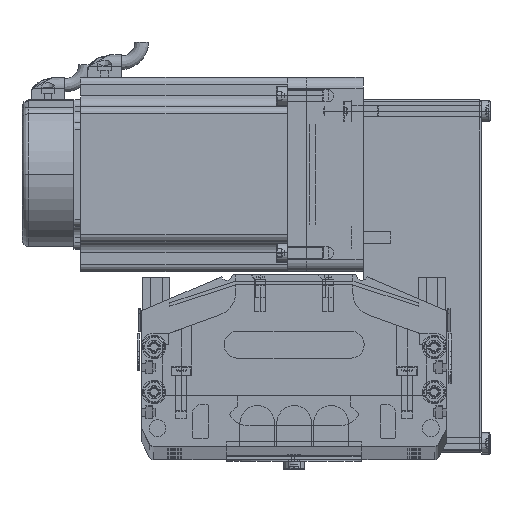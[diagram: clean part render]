
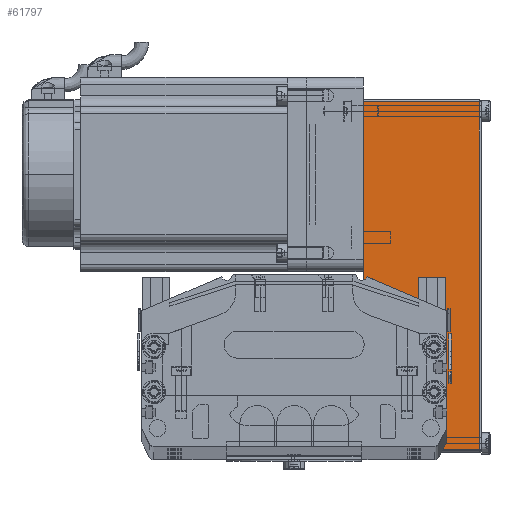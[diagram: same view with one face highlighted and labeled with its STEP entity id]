
A CAD part, top view. The second image highlights one B-rep face of the part: STEP entity #61797.
In plain terms, the highlighted planar face has unit normal (0, 0, 1) as drawn and (0, -1, 0) by its records, which use the part's own axes.
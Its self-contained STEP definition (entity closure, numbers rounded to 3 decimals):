
#31100 = CARTESIAN_POINT ( 'NONE',  ( -123.2, -40., 51.5 ) ) ;
#31114 = CARTESIAN_POINT ( 'NONE',  ( 31., -40., 51.5 ) ) ;
#61723 = ORIENTED_EDGE ( 'NONE', *, *, #61734, .T. ) ;
#61734 = EDGE_CURVE ( 'NONE', #61905, #61735, #80831, .T. ) ;
#61735 = VERTEX_POINT ( 'NONE', #80832 ) ;
#61797 = ADVANCED_FACE ( 'NONE', ( #81141 ), #81143, .F. ) ;
#61810 = EDGE_LOOP ( 'NONE', ( #61723, #61934, #61854, #61929 ) ) ;
#61819 = EDGE_CURVE ( 'NONE', #61965, #61936, #81032, .T. ) ;
#61832 = EDGE_CURVE ( 'NONE', #61735, #61965, #81013, .T. ) ;
#61854 = ORIENTED_EDGE ( 'NONE', *, *, #61819, .T. ) ;
#61870 = EDGE_CURVE ( 'NONE', #61936, #61905, #81250, .T. ) ;
#61905 = VERTEX_POINT ( 'NONE', #81361 ) ;
#61929 = ORIENTED_EDGE ( 'NONE', *, *, #61870, .T. ) ;
#61934 = ORIENTED_EDGE ( 'NONE', *, *, #61832, .T. ) ;
#61936 = VERTEX_POINT ( 'NONE', #31100 ) ;
#61965 = VERTEX_POINT ( 'NONE', #31114 ) ;
#80831 = LINE ( 'NONE', #80947, #80962 ) ;
#80832 = CARTESIAN_POINT ( 'NONE',  ( 31., -40., 0. ) ) ;
#80946 = DIRECTION ( 'NONE',  ( 1., 0., 0. ) ) ;
#80947 = CARTESIAN_POINT ( 'NONE',  ( 32., -40., 0. ) ) ;
#80962 = VECTOR ( 'NONE', #80946, 1000. ) ;
#81006 = DIRECTION ( 'NONE',  ( 0., 0., 1. ) ) ;
#81007 = VECTOR ( 'NONE', #81006, 1000. ) ;
#81012 = CARTESIAN_POINT ( 'NONE',  ( 31., -40., 52.5 ) ) ;
#81013 = LINE ( 'NONE', #81012, #81007 ) ;
#81032 = LINE ( 'NONE', #81035, #81091 ) ;
#81035 = CARTESIAN_POINT ( 'NONE',  ( 32., -40., 51.5 ) ) ;
#81091 = VECTOR ( 'NONE', #81106, 1000. ) ;
#81106 = DIRECTION ( 'NONE',  ( -1., 0., 0. ) ) ;
#81121 = DIRECTION ( 'NONE',  ( -1., 0., 0. ) ) ;
#81140 = DIRECTION ( 'NONE',  ( 0., 1., 0. ) ) ;
#81141 = FACE_OUTER_BOUND ( 'NONE', #61810, .T. ) ;
#81143 = PLANE ( 'NONE',  #81145 ) ;
#81145 = AXIS2_PLACEMENT_3D ( 'NONE', #81194, #81140, #81121 ) ;
#81194 = CARTESIAN_POINT ( 'NONE',  ( 32., -40., 52.5 ) ) ;
#81249 = CARTESIAN_POINT ( 'NONE',  ( -123.2, -40., 52.5 ) ) ;
#81250 = LINE ( 'NONE', #81249, #81369 ) ;
#81361 = CARTESIAN_POINT ( 'NONE',  ( -123.2, -40., 0. ) ) ;
#81368 = DIRECTION ( 'NONE',  ( 0., 0., -1. ) ) ;
#81369 = VECTOR ( 'NONE', #81368, 1000. ) ;
